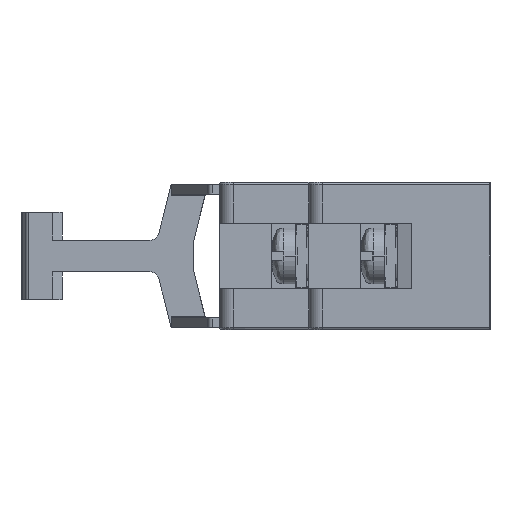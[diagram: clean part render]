
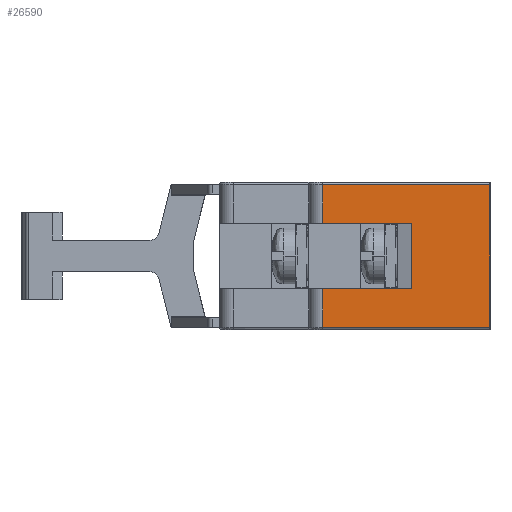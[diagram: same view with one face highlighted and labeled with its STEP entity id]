
A CAD part, left-side view. The second image highlights one B-rep face of the part: STEP entity #26590.
In plain terms, the highlighted planar face has unit normal (-1, 0, 0).
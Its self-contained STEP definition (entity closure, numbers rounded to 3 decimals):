
#56 = DIRECTION ( 'NONE',  ( 1., 0., 0. ) ) ;
#72 = DIRECTION ( 'NONE',  ( 0., 0., -1. ) ) ;
#88 = VECTOR ( 'NONE', #29981, 1000. ) ;
#652 = EDGE_CURVE ( 'NONE', #40503, #13239, #28829, .T. ) ;
#1845 = DIRECTION ( 'NONE',  ( 0., -1., 0. ) ) ;
#2448 = DIRECTION ( 'NONE',  ( 0., 1., 0. ) ) ;
#3978 = ORIENTED_EDGE ( 'NONE', *, *, #4261, .F. ) ;
#4261 = EDGE_CURVE ( 'NONE', #40503, #23828, #24193, .T. ) ;
#5920 = CARTESIAN_POINT ( 'NONE',  ( -34.841, 6.499, 3.075 ) ) ;
#6607 = CARTESIAN_POINT ( 'NONE',  ( -34.841, 6.499, 3.5 ) ) ;
#7406 = VECTOR ( 'NONE', #15158, 1000. ) ;
#7723 = VERTEX_POINT ( 'NONE', #29602 ) ;
#7900 = ORIENTED_EDGE ( 'NONE', *, *, #28283, .F. ) ;
#7918 = CARTESIAN_POINT ( 'NONE',  ( -34.841, -3.051, -3.075 ) ) ;
#8494 = LINE ( 'NONE', #7918, #88 ) ;
#8587 = LINE ( 'NONE', #20718, #15973 ) ;
#9128 = CARTESIAN_POINT ( 'NONE',  ( -34.841, 6.499, -3.5 ) ) ;
#9131 = CARTESIAN_POINT ( 'NONE',  ( -34.841, -3.051, 3.5 ) ) ;
#9789 = VECTOR ( 'NONE', #28014, 1000. ) ;
#10566 = EDGE_CURVE ( 'NONE', #18261, #33554, #36618, .T. ) ;
#10639 = LINE ( 'NONE', #5920, #18029 ) ;
#13239 = VERTEX_POINT ( 'NONE', #20241 ) ;
#15158 = DIRECTION ( 'NONE',  ( 0., -1., 0. ) ) ;
#15227 = VERTEX_POINT ( 'NONE', #24319 ) ;
#15299 = ORIENTED_EDGE ( 'NONE', *, *, #23404, .T. ) ;
#15973 = VECTOR ( 'NONE', #1845, 1000. ) ;
#17402 = CARTESIAN_POINT ( 'NONE',  ( -34.841, 6.499, -8. ) ) ;
#18029 = VECTOR ( 'NONE', #34056, 1000. ) ;
#18261 = VERTEX_POINT ( 'NONE', #33401 ) ;
#18824 = EDGE_CURVE ( 'NONE', #33554, #40644, #10639, .T. ) ;
#18968 = CARTESIAN_POINT ( 'NONE',  ( -34.841, -11.451, 8. ) ) ;
#19509 = LINE ( 'NONE', #21863, #26896 ) ;
#20241 = CARTESIAN_POINT ( 'NONE',  ( -34.841, 6.499, -7.65 ) ) ;
#20718 = CARTESIAN_POINT ( 'NONE',  ( -34.841, -11.451, -7.65 ) ) ;
#21863 = CARTESIAN_POINT ( 'NONE',  ( -34.841, -11.451, 8. ) ) ;
#22116 = DIRECTION ( 'NONE',  ( 0., 1., 0. ) ) ;
#22512 = EDGE_CURVE ( 'NONE', #18261, #15227, #19509, .T. ) ;
#23404 = EDGE_CURVE ( 'NONE', #13239, #15227, #8587, .T. ) ;
#23828 = VERTEX_POINT ( 'NONE', #35112 ) ;
#23859 = DIRECTION ( 'NONE',  ( 0., 0., -1. ) ) ;
#24193 = LINE ( 'NONE', #37211, #7406 ) ;
#24319 = CARTESIAN_POINT ( 'NONE',  ( -34.841, -11.451, -7.65 ) ) ;
#24863 = CARTESIAN_POINT ( 'NONE',  ( -34.841, 6.499, 7.65 ) ) ;
#26590 = ADVANCED_FACE ( 'NONE', ( #29113 ), #37821, .F. ) ;
#26896 = VECTOR ( 'NONE', #72, 1000. ) ;
#27235 = VECTOR ( 'NONE', #2448, 1000. ) ;
#28014 = DIRECTION ( 'NONE',  ( 0., 1., 0. ) ) ;
#28283 = EDGE_CURVE ( 'NONE', #7723, #40644, #33962, .T. ) ;
#28829 = LINE ( 'NONE', #17402, #36252 ) ;
#28849 = ORIENTED_EDGE ( 'NONE', *, *, #18824, .T. ) ;
#29113 = FACE_OUTER_BOUND ( 'NONE', #32469, .T. ) ;
#29602 = CARTESIAN_POINT ( 'NONE',  ( -34.841, -3.051, 3.5 ) ) ;
#29981 = DIRECTION ( 'NONE',  ( 0., 0., -1. ) ) ;
#32469 = EDGE_LOOP ( 'NONE', ( #38411, #15299, #37242, #36411, #28849, #7900, #35671, #3978 ) ) ;
#33401 = CARTESIAN_POINT ( 'NONE',  ( -34.841, -11.451, 7.65 ) ) ;
#33554 = VERTEX_POINT ( 'NONE', #24863 ) ;
#33962 = LINE ( 'NONE', #9131, #9789 ) ;
#34056 = DIRECTION ( 'NONE',  ( 0., 0., -1. ) ) ;
#34290 = AXIS2_PLACEMENT_3D ( 'NONE', #18968, #56, #22116 ) ;
#34968 = EDGE_CURVE ( 'NONE', #7723, #23828, #8494, .T. ) ;
#35112 = CARTESIAN_POINT ( 'NONE',  ( -34.841, -3.051, -3.5 ) ) ;
#35671 = ORIENTED_EDGE ( 'NONE', *, *, #34968, .T. ) ;
#36252 = VECTOR ( 'NONE', #23859, 1000. ) ;
#36411 = ORIENTED_EDGE ( 'NONE', *, *, #10566, .T. ) ;
#36618 = LINE ( 'NONE', #40166, #27235 ) ;
#37211 = CARTESIAN_POINT ( 'NONE',  ( -34.841, 6.499, -3.5 ) ) ;
#37242 = ORIENTED_EDGE ( 'NONE', *, *, #22512, .F. ) ;
#37821 = PLANE ( 'NONE',  #34290 ) ;
#38411 = ORIENTED_EDGE ( 'NONE', *, *, #652, .T. ) ;
#40166 = CARTESIAN_POINT ( 'NONE',  ( -34.841, 6.499, 7.65 ) ) ;
#40503 = VERTEX_POINT ( 'NONE', #9128 ) ;
#40644 = VERTEX_POINT ( 'NONE', #6607 ) ;
